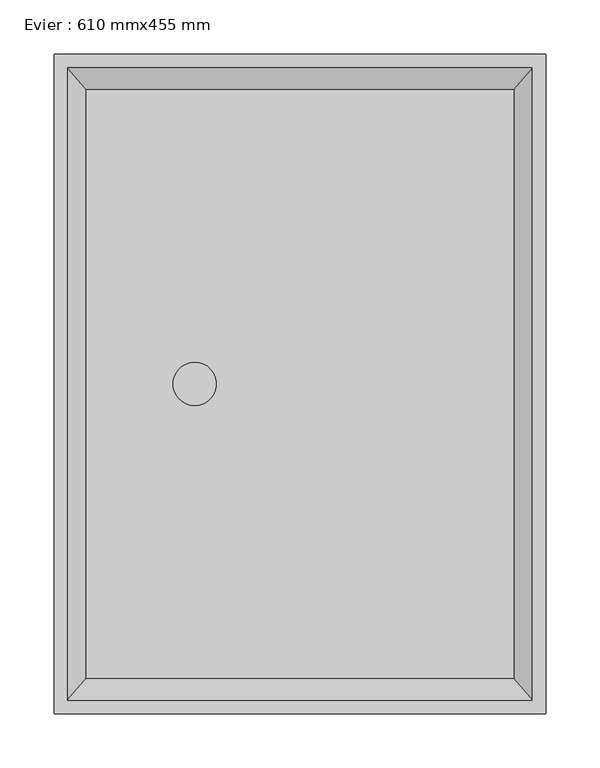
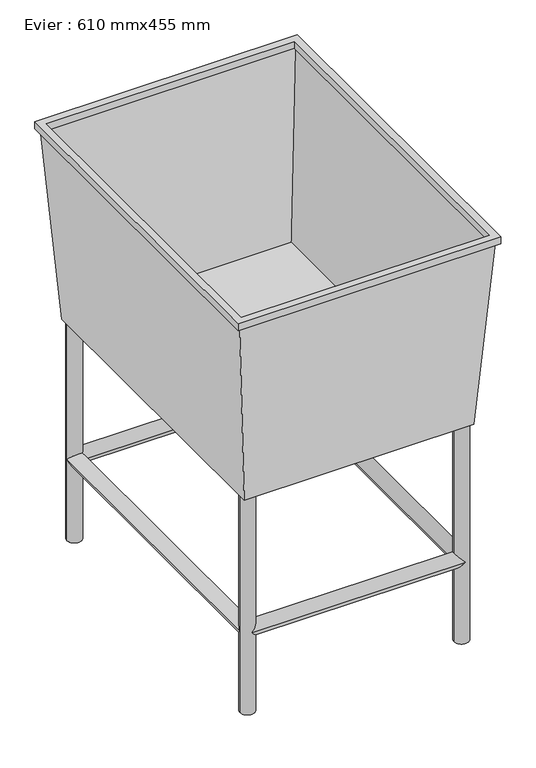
"""IFC4 building model written with IfcOpenShell, lengths in millimetres: flow terminal geometry, Evier : 610 mmx455 mm."""

from ifc_helpers import new_model, si_unit, point, frame, frame_2d, origin, place, context, project, spatial, polyline, circle_curve, ellipse_curve, trimmed, segment, composite_curve, outline, extrude, source, transform, mapped, element, save
from ifc_brep_helpers import plane_surface, cylinder_surface, revolved_surface, advanced_brep


def evier_610_mmx455_mm_c8a5c5c3(model_context):
    return source(origin(), model_context, "Body", "SolidModel", [
        advanced_brep(
        [(29.36875, 259.75625, 397.61875), (54.76875, 259.75625, 397.61875), (400.23125, 259.75625, 397.61875), (425.63125, 259.75625, 397.61875), (29.36875, -259.75625, 397.61875), (54.76875, -259.75625, 397.61875), (400.23125, -259.75625, 397.61875), (425.63125, -259.75625, 397.61875), (29.36875, 259.75625, 0.0), (54.76875, 259.75625, 0.0), (400.23125, 259.75625, 0.0), (425.63125, 259.75625, 0.0), (29.36875, -259.75625, 0.0), (54.76875, -259.75625, 0.0), (400.23125, -259.75625, 0.0), (425.63125, -259.75625, 0.0), (29.36875, 259.75625, 149.1070312), (51.0490061, 250.7759939, 158.0872874), (54.76875, 259.75625, 161.8070312), (54.76875, 259.75625, 136.4070312), (51.0490061, 250.7759939, 140.1267751), (42.06875, 272.45625, 149.1070312), (400.23125, 259.75625, 161.8070312), (403.9509939, 250.7759939, 158.0872874), (425.63125, 259.75625, 149.1070312), (403.9509939, 250.7759939, 140.1267751), (400.23125, 259.75625, 136.4070312), (412.93125, 272.45625, 149.1070312), (29.36875, -259.75625, 149.1070312), (54.76875, -259.75625, 136.4070312), (42.06875, -272.45625, 149.1070312), (54.76875, -259.75625, 161.8070312), (51.0490061, -250.7759939, 158.0872874), (51.0490061, -250.7759939, 140.1267751), (400.23125, -259.75625, 161.8070312), (412.93125, -272.45625, 149.1070312), (400.23125, -259.75625, 136.4070312), (425.63125, -259.75625, 149.1070312), (403.9509939, -250.7759939, 158.0872874), (403.9509939, -250.7759939, 140.1267751), (400.23125, 247.05625, 149.1070312), (400.23125, -247.05625, 149.1070312), (54.76875, -247.05625, 149.1070312), (54.76875, 247.05625, 149.1070312)],
        [
            (0, 1, circle_curve(frame((42.06875, 259.75625, 397.61875), z_axis=(0.0, 0.0, 1.0), x_axis=(1.0, 0.0, 0.0)), 12.7)),
            (1, 0, circle_curve(frame((42.06875, 259.75625, 397.61875), z_axis=(0.0, 0.0, 1.0), x_axis=(1.0, 0.0, 0.0)), 12.7)),
            (2, 3, circle_curve(frame((412.93125, 259.75625, 397.61875), z_axis=(0.0, 0.0, 1.0), x_axis=(1.0, 0.0, 0.0)), 12.7)),
            (3, 2, circle_curve(frame((412.93125, 259.75625, 397.61875), z_axis=(0.0, 0.0, 1.0), x_axis=(1.0, 0.0, 0.0)), 12.7)),
            (4, 5, circle_curve(frame((42.06875, -259.75625, 397.61875), z_axis=(0.0, 0.0, 1.0), x_axis=(1.0, 0.0, 0.0)), 12.7)),
            (5, 4, circle_curve(frame((42.06875, -259.75625, 397.61875), z_axis=(0.0, 0.0, 1.0), x_axis=(1.0, 0.0, 0.0)), 12.7)),
            (6, 7, circle_curve(frame((412.93125, -259.75625, 397.61875), z_axis=(0.0, 0.0, 1.0), x_axis=(1.0, 0.0, 0.0)), 12.7)),
            (7, 6, circle_curve(frame((412.93125, -259.75625, 397.61875), z_axis=(0.0, 0.0, 1.0), x_axis=(1.0, 0.0, 0.0)), 12.7)),
            (8, 9, circle_curve(frame((42.06875, 259.75625, 0.0), z_axis=(0.0, 0.0, -1.0), x_axis=(1.0, 0.0, 0.0)), 12.7)),
            (9, 8, circle_curve(frame((42.06875, 259.75625, 0.0), z_axis=(0.0, 0.0, -1.0), x_axis=(1.0, 0.0, 0.0)), 12.7)),
            (10, 11, circle_curve(frame((412.93125, 259.75625, 0.0), z_axis=(0.0, 0.0, -1.0), x_axis=(1.0, 0.0, 0.0)), 12.7)),
            (11, 10, circle_curve(frame((412.93125, 259.75625, 0.0), z_axis=(0.0, 0.0, -1.0), x_axis=(1.0, 0.0, 0.0)), 12.7)),
            (12, 13, circle_curve(frame((42.06875, -259.75625, 0.0), z_axis=(0.0, 0.0, -1.0), x_axis=(1.0, 0.0, 0.0)), 12.7)),
            (13, 12, circle_curve(frame((42.06875, -259.75625, 0.0), z_axis=(0.0, 0.0, -1.0), x_axis=(1.0, 0.0, 0.0)), 12.7)),
            (14, 15, circle_curve(frame((412.93125, -259.75625, 0.0), z_axis=(0.0, 0.0, -1.0), x_axis=(1.0, 0.0, 0.0)), 12.7)),
            (15, 14, circle_curve(frame((412.93125, -259.75625, 0.0), z_axis=(0.0, 0.0, -1.0), x_axis=(1.0, 0.0, 0.0)), 12.7)),
            (0, 16),
            (16, 17, ellipse_curve(frame((42.06875, 259.75625, 149.1070312), z_axis=(0.0, 0.7071067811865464, 0.7071067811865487), x_axis=(0.0, -0.7071067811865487, 0.7071067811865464)), 17.9605122, 12.7)),
            (17, 18, ellipse_curve(frame((42.06875, 259.75625, 149.1070312), z_axis=(-0.7071067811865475, 0.0, 0.7071067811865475), x_axis=(0.7071067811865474, 0.0, 0.7071067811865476)), 17.9605122, 12.7)),
            (18, 1),
            (9, 19),
            (19, 20, ellipse_curve(frame((42.06875, 259.75625, 149.1070312), z_axis=(-0.7071067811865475, 0.0, -0.7071067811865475), x_axis=(-0.7071067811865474, 0.0, 0.7071067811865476)), 17.9605122, 12.7)),
            (20, 16, ellipse_curve(frame((42.06875, 259.75625, 149.1070312), z_axis=(0.0, 0.7071067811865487, -0.7071067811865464), x_axis=(0.0, 0.7071067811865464, 0.7071067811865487)), 17.9605122, 12.7)),
            (16, 8),
            (18, 21, ellipse_curve(frame((42.06875, 259.75625, 149.1070312), z_axis=(-0.7071067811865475, 0.0, 0.7071067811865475), x_axis=(0.7071067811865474, 0.0, 0.7071067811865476)), 17.9605122, 12.7)),
            (21, 19, ellipse_curve(frame((42.06875, 259.75625, 149.1070312), z_axis=(-0.7071067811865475, 0.0, -0.7071067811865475), x_axis=(-0.7071067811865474, 0.0, 0.7071067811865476)), 17.9605122, 12.7)),
            (2, 22),
            (22, 23, ellipse_curve(frame((412.93125, 259.75625, 149.1070312), z_axis=(0.7071067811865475, 0.0, 0.7071067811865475), x_axis=(-0.7071067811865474, 0.0, 0.7071067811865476)), 17.9605122, 12.7)),
            (23, 24, ellipse_curve(frame((412.93125, 259.75625, 149.1070312), z_axis=(0.0, 0.7071067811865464, 0.7071067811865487), x_axis=(0.0, -0.7071067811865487, 0.7071067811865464)), 17.9605122, 12.7)),
            (24, 3),
            (11, 24),
            (24, 25, ellipse_curve(frame((412.93125, 259.75625, 149.1070312), z_axis=(0.0, 0.7071067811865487, -0.7071067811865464), x_axis=(0.0, 0.7071067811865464, 0.7071067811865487)), 17.9605122, 12.7)),
            (25, 26, ellipse_curve(frame((412.93125, 259.75625, 149.1070312), z_axis=(0.7071067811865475, 0.0, -0.7071067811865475), x_axis=(0.7071067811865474, 0.0, 0.7071067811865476)), 17.9605122, 12.7)),
            (26, 10),
            (26, 27, ellipse_curve(frame((412.93125, 259.75625, 149.1070312), z_axis=(0.7071067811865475, 0.0, -0.7071067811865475), x_axis=(0.7071067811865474, 0.0, 0.7071067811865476)), 17.9605122, 12.7)),
            (27, 22, ellipse_curve(frame((412.93125, 259.75625, 149.1070312), z_axis=(0.7071067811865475, 0.0, 0.7071067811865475), x_axis=(-0.7071067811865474, 0.0, 0.7071067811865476)), 17.9605122, 12.7)),
            (4, 28),
            (28, 12),
            (13, 29),
            (29, 30, ellipse_curve(frame((42.06875, -259.75625, 149.1070312), z_axis=(-0.7071067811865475, 0.0, -0.7071067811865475), x_axis=(-0.7071067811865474, 0.0, 0.7071067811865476)), 17.9605122, 12.7)),
            (30, 31, ellipse_curve(frame((42.06875, -259.75625, 149.1070312), z_axis=(-0.7071067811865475, 0.0, 0.7071067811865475), x_axis=(0.7071067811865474, 0.0, 0.7071067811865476)), 17.9605122, 12.7)),
            (31, 5),
            (31, 32, ellipse_curve(frame((42.06875, -259.75625, 149.1070312), z_axis=(-0.7071067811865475, 0.0, 0.7071067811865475), x_axis=(0.7071067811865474, 0.0, 0.7071067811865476)), 17.9605122, 12.7)),
            (32, 28, ellipse_curve(frame((42.06875, -259.75625, 149.1070312), z_axis=(0.0, -0.7071067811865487, 0.7071067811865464), x_axis=(0.0, 0.7071067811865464, 0.7071067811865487)), 17.9605122, 12.7)),
            (28, 33, ellipse_curve(frame((42.06875, -259.75625, 149.1070312), z_axis=(0.0, -0.7071067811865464, -0.7071067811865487), x_axis=(0.0, -0.7071067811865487, 0.7071067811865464)), 17.9605122, 12.7)),
            (33, 29, ellipse_curve(frame((42.06875, -259.75625, 149.1070312), z_axis=(-0.7071067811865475, 0.0, -0.7071067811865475), x_axis=(-0.7071067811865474, 0.0, 0.7071067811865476)), 17.9605122, 12.7)),
            (6, 34),
            (34, 35, ellipse_curve(frame((412.93125, -259.75625, 149.1070312), z_axis=(0.7071067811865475, 0.0, 0.7071067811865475), x_axis=(-0.7071067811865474, 0.0, 0.7071067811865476)), 17.9605122, 12.7)),
            (35, 36, ellipse_curve(frame((412.93125, -259.75625, 149.1070312), z_axis=(0.7071067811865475, 0.0, -0.7071067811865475), x_axis=(0.7071067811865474, 0.0, 0.7071067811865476)), 17.9605122, 12.7)),
            (36, 14),
            (15, 37),
            (37, 7),
            (37, 38, ellipse_curve(frame((412.93125, -259.75625, 149.1070312), z_axis=(0.0, -0.7071067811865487, 0.7071067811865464), x_axis=(0.0, 0.7071067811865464, 0.7071067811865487)), 17.9605122, 12.7)),
            (38, 34, ellipse_curve(frame((412.93125, -259.75625, 149.1070312), z_axis=(0.7071067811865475, 0.0, 0.7071067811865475), x_axis=(-0.7071067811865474, 0.0, 0.7071067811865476)), 17.9605122, 12.7)),
            (36, 39, ellipse_curve(frame((412.93125, -259.75625, 149.1070312), z_axis=(0.7071067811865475, 0.0, -0.7071067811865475), x_axis=(0.7071067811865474, 0.0, 0.7071067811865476)), 17.9605122, 12.7)),
            (39, 37, ellipse_curve(frame((412.93125, -259.75625, 149.1070312), z_axis=(0.0, -0.7071067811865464, -0.7071067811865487), x_axis=(0.0, -0.7071067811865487, 0.7071067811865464)), 17.9605122, 12.7)),
            (37, 24),
            (23, 40, ellipse_curve(frame((412.93125, 259.75625, 149.1070312), z_axis=(0.7071067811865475, -0.7071067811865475, 0.0), x_axis=(0.7071067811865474, 0.7071067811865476, 0.0)), 17.9605122, 12.7)),
            (40, 41),
            (41, 38, ellipse_curve(frame((412.93125, -259.75625, 149.1070312), z_axis=(0.7071067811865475, 0.7071067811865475, 0.0), x_axis=(-0.7071067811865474, 0.7071067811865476, 0.0)), 17.9605122, 12.7)),
            (39, 41, ellipse_curve(frame((412.93125, -259.75625, 149.1070312), z_axis=(0.7071067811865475, 0.7071067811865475, 0.0), x_axis=(-0.7071067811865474, 0.7071067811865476, 0.0)), 17.9605122, 12.7)),
            (40, 25, ellipse_curve(frame((412.93125, 259.75625, 149.1070312), z_axis=(0.7071067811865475, -0.7071067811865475, 0.0), x_axis=(0.7071067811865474, 0.7071067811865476, 0.0)), 17.9605122, 12.7)),
            (30, 35),
            (41, 42),
            (42, 32, ellipse_curve(frame((42.06875, -259.75625, 149.1070312), z_axis=(0.7071067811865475, -0.7071067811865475, 0.0), x_axis=(0.7071067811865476, 0.7071067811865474, 0.0)), 17.9605122, 12.7)),
            (33, 42, ellipse_curve(frame((42.06875, -259.75625, 149.1070312), z_axis=(0.7071067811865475, -0.7071067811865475, 0.0), x_axis=(0.7071067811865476, 0.7071067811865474, 0.0)), 17.9605122, 12.7)),
            (16, 28),
            (42, 43),
            (43, 17, ellipse_curve(frame((42.06875, 259.75625, 149.1070312), z_axis=(-0.7071067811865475, -0.7071067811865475, 0.0), x_axis=(0.7071067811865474, -0.7071067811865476, 0.0)), 17.9605122, 12.7)),
            (20, 43, ellipse_curve(frame((42.06875, 259.75625, 149.1070312), z_axis=(-0.7071067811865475, -0.7071067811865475, 0.0), x_axis=(0.7071067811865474, -0.7071067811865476, 0.0)), 17.9605122, 12.7)),
            (27, 21),
            (43, 40),
        ],
        [
            plane_surface(frame((54.76875, 259.75625, 397.61875), z_axis=(0.0, 0.0, 1.0), x_axis=(0.0, 1.0, 0.0))),
            plane_surface(frame((54.76875, 259.75625, 0.0), z_axis=(0.0, 0.0, -1.0), x_axis=(0.0, -1.0, 0.0))),
            cylinder_surface(frame((42.06875, 259.75625, 0.0), z_axis=(0.0, 0.0, 1.0), x_axis=(1.0, 0.0, 0.0)), 12.7),
            cylinder_surface(frame((412.93125, 259.75625, 0.0), z_axis=(0.0, 0.0, 1.0), x_axis=(1.0, 0.0, 0.0)), 12.7),
            cylinder_surface(frame((42.06875, -259.75625, 0.0), z_axis=(0.0, 0.0, 1.0), x_axis=(1.0, 0.0, 0.0)), 12.7),
            cylinder_surface(frame((412.93125, -259.75625, 0.0), z_axis=(0.0, 0.0, 1.0), x_axis=(1.0, 0.0, 0.0)), 12.7),
            cylinder_surface(frame((412.93125, 259.75625, 149.1070312), z_axis=(0.0, 1.0, 0.0), x_axis=(1.0, 0.0, 0.0)), 12.7),
            cylinder_surface(frame((412.93125, -259.75625, 149.1070312), z_axis=(1.0, 0.0, 0.0), x_axis=(0.0, -1.0, 0.0)), 12.7),
            cylinder_surface(frame((42.06875, -259.75625, 149.1070312), z_axis=(0.0, -1.0, 0.0), x_axis=(-1.0, 0.0, 0.0)), 12.7),
            cylinder_surface(frame((42.06875, 259.75625, 149.1070312), z_axis=(-1.0, 0.0, 0.0), x_axis=(0.0, 1.0, 0.0)), 12.7),
        ],
        [
            (0, [[1, 2]]),
            (0, [[3, 4]]),
            (0, [[5, 6]]),
            (0, [[7, 8]]),
            (1, [[9, 10]]),
            (1, [[11, 12]]),
            (1, [[13, 14]]),
            (1, [[15, 16]]),
            (2, [[-1, 17, 18, 19, 20]]),
            (2, [[-10, 21, 22, 23, 24]]),
            (2, [[-2, -20, 25, 26, -21, -9, -24, -17]]),
            (3, [[-3, 27, 28, 29, 30]]),
            (3, [[-12, 31, 32, 33, 34]]),
            (3, [[-4, -30, -31, -11, -34, 35, 36, -27]]),
            (4, [[-5, 37, 38, -14, 39, 40, 41, 42]]),
            (4, [[-6, -42, 43, 44, -37]]),
            (4, [[-13, -38, 45, 46, -39]]),
            (5, [[-7, 47, 48, 49, 50, -16, 51, 52]]),
            (5, [[-8, -52, 53, 54, -47]]),
            (5, [[-15, -50, 55, 56, -51]]),
            (6, [[57, -29, 58, 59, 60, -53]]),
            (6, [[-57, -56, 61, -59, 62, -32]]),
            (7, [[63, -48, -54, -60, 64, 65, -43, -41]]),
            (7, [[-63, -40, -46, 66, -64, -61, -55, -49]]),
            (8, [[67, -44, -65, 68, 69, -18]]),
            (8, [[-67, -23, 70, -68, -66, -45]]),
            (9, [[71, -25, -19, -69, 72, -58, -28, -36]]),
            (9, [[-71, -35, -33, -62, -72, -70, -22, -26]]),
        ],
    ),
        extrude(outline(polyline([(455.0, 305.0), (455.0, -305.0), (0.0, -305.0), (0.0, 305.0), (455.0, 305.0)]), holes=[polyline([(442.3, 292.3), (12.7, 292.3), (12.7, -292.3), (442.3, -292.3), (442.3, 292.3)])]), frame((0.0, 0.0, 737.3), z_axis=(0.0, 0.0, 1.0), x_axis=(1.0, 0.0, 0.0)), (0.0, 0.0, 1.0), 12.7),
        advanced_brep(
        [(426.425, 273.25, 397.61875), (426.425, -273.25, 397.61875), (28.575, -273.25, 397.61875), (28.575, 273.25, 397.61875), (130.175, -20.0, 397.61875), (130.175, 20.0, 397.61875), (449.1284025, 299.44375, 737.3), (5.7334195, 299.44375, 737.3), (5.7334195, -299.44375, 737.3), (449.1284025, -299.44375, 737.3), (448.3346525, 298.65, 737.3), (448.3346525, -298.65, 737.3), (6.5271695, -298.65, 737.3), (6.5271695, 298.65, 737.3), (425.63125, 272.45625, 400.0), (29.36875, 272.45625, 400.0), (29.36875, -272.45625, 400.0), (425.63125, -272.45625, 400.0), (130.175, 20.0, 400.0), (130.175, -20.0, 400.0)],
        [
            (0, 1),
            (1, 2),
            (2, 3),
            (3, 0),
            (4, 5, circle_curve(frame((130.175, 0.0, 397.61875), z_axis=(0.0, 0.0, 1.0), x_axis=(0.0, 1.0, 0.0)), 20.0)),
            (5, 4, circle_curve(frame((130.175, 0.0, 397.61875), z_axis=(0.0, 0.0, 1.0), x_axis=(0.0, 1.0, 0.0)), 20.0)),
            (6, 7),
            (7, 8),
            (8, 9),
            (9, 6),
            (10, 11),
            (11, 12),
            (12, 13),
            (13, 10),
            (0, 6),
            (9, 1),
            (8, 2),
            (7, 3),
            (14, 15),
            (15, 16),
            (16, 17),
            (17, 14),
            (18, 19, circle_curve(frame((130.175, 0.0, 400.0), z_axis=(0.0, 0.0, -1.0), x_axis=(0.0, 1.0, 0.0)), 20.0)),
            (19, 18, circle_curve(frame((130.175, 0.0, 400.0), z_axis=(0.0, 0.0, -1.0), x_axis=(0.0, 1.0, 0.0)), 20.0)),
            (17, 11),
            (10, 14),
            (16, 12),
            (15, 13),
            (18, 5),
            (4, 19),
        ],
        [
            plane_surface(frame((227.5, 0.0, 397.61875), z_axis=(0.0, 0.0, -1.0), x_axis=(-1.0, 0.0, 0.0))),
            plane_surface(frame((227.430911, 0.0, 737.3), z_axis=(0.0, 0.0, 1.0), x_axis=(-1.0, 0.0, 0.0))),
            plane_surface(frame((449.1284025, 0.0, 737.3), z_axis=(0.9977738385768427, 0.0, -0.06668858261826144), x_axis=(0.0, -1.0, 0.0))),
            plane_surface(frame((227.430911, -299.44375, 737.3), z_axis=(0.0, -0.9970400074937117, -0.07688448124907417), x_axis=(-1.0, 0.0, 0.0))),
            plane_surface(frame((5.7334195, 0.0, 737.3), z_axis=(-0.997746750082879, 0.0, -0.06709264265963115), x_axis=(0.0, 1.0, 0.0))),
            plane_surface(frame((227.430911, 299.44375, 737.3), z_axis=(0.0, 0.9970400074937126, -0.07688448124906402), x_axis=(1.0, 0.0, 0.0))),
            plane_surface(frame((227.5, 0.0, 400.0), z_axis=(0.0, 0.0, 1.0), x_axis=(-1.0, 0.0, 0.0))),
            plane_surface(frame((448.3346525, 0.0, 737.3), z_axis=(-0.997742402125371, 0.0, 0.06715727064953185), x_axis=(0.0, -1.0, 0.0))),
            plane_surface(frame((227.430911, -298.65, 737.3), z_axis=(0.0, 0.9969982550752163, 0.0774240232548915), x_axis=(-1.0, 0.0, 0.0))),
            plane_surface(frame((6.5271695, 0.0, 737.3), z_axis=(0.9977149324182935, 0.0, 0.06756414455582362), x_axis=(0.0, 1.0, 0.0))),
            plane_surface(frame((227.430911, 298.65, 737.3), z_axis=(0.0, -0.996998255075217, 0.07742402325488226), x_axis=(1.0, 0.0, 0.0))),
            revolved_surface(polyline([(130.175, 20.0, 400.0), (130.175, 20.0, 397.61875)]), (130.175, 0.0, 397.61875), (0.0, 0.0, 1.0)),
        ],
        [
            (0, [[1, 2, 3, 4], [5, 6]]),
            (1, [[7, 8, 9, 10], [11, 12, 13, 14]]),
            (2, [[-1, 15, -10, 16]]),
            (3, [[-2, -16, -9, 17]]),
            (4, [[-3, -17, -8, 18]]),
            (5, [[-4, -18, -7, -15]]),
            (6, [[19, 20, 21, 22], [23, 24]]),
            (7, [[-22, 25, -11, 26]]),
            (8, [[-21, 27, -12, -25]]),
            (9, [[-20, 28, -13, -27]]),
            (10, [[-19, -26, -14, -28]]),
            (11, [[29, -5, 30, -23]]),
            (11, [[-29, -24, -30, -6]]),
        ],
    ),
        extrude(outline(composite_curve([segment(trimmed(circle_curve(frame_2d((130.175, 0.0)), 20.0), [point((130.175, -20.0))], [point((130.175, 20.0))], False, "CARTESIAN"), True, "CONTINUOUS"), segment(trimmed(circle_curve(frame_2d((130.175, 0.0)), 20.0), [point((130.175, 20.0))], [point((130.175, -20.0))], False, "CARTESIAN"), True, "CONTINUOUS")], self_intersect=False)), frame((0.0, 0.0, 397.61875), z_axis=(0.0, 0.0, 1.0), x_axis=(1.0, 0.0, 0.0)), (0.0, 0.0, 1.0), 2.38125),
    ])


if __name__ == "__main__":
    model = new_model("IFC4")
    model_context = context("Model", 3, world=origin())
    ifc_project = project(units=[si_unit("LENGTHUNIT", "METRE", prefix="MILLI")], contexts=[model_context])
    site = spatial("IfcSite", under=ifc_project)
    building = spatial("IfcBuilding", under=site)
    placement = place(None, origin())
    evier_610_mmx455_mm_shape = evier_610_mmx455_mm_c8a5c5c3(model_context)
    element("IfcFlowTerminal", 1, ObjectType="Evier : 610 mmx455 mm", at=placement, inside=building, context=model_context, shape_type="MappedRepresentation", body=[
        mapped(evier_610_mmx455_mm_shape, transform((0.0, 0.0, 0.0), x_axis=(1.0, 0.0, 0.0), y_axis=(0.0, 1.0, 0.0), z_axis=(0.0, 0.0, 1.0))),
    ])
    save(model, "model.ifc")
